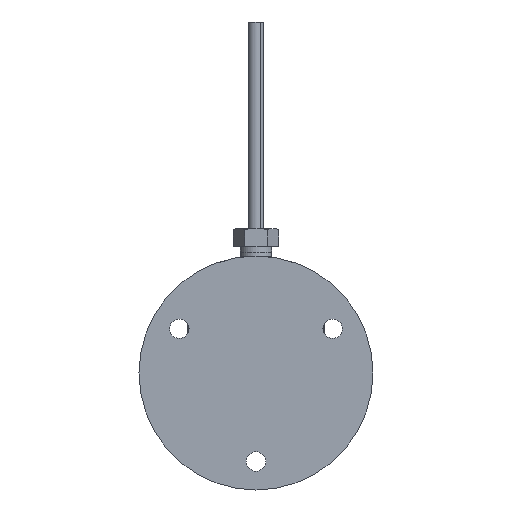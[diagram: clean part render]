
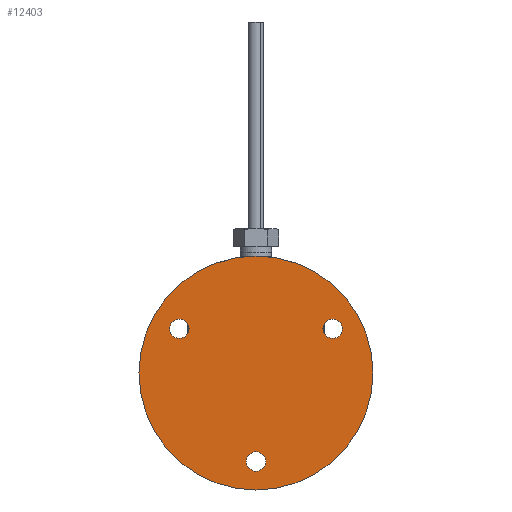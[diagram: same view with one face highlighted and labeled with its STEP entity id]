
A CAD part, front view. The second image highlights one B-rep face of the part: STEP entity #12403.
In plain terms, the highlighted planar face has unit normal (0, -1, 0) as drawn and (-1, 0, 0) by its records, which use the part's own axes.
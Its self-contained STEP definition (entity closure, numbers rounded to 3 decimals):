
#665=PLANE('',#13325);
#1400=CIRCLE('',#13326,2.459);
#1401=CIRCLE('',#13327,2.459);
#1402=CIRCLE('',#13328,2.459);
#1403=CIRCLE('',#13329,29.75);
#2226=ORIENTED_EDGE('',*,*,#5523,.T.);
#2227=ORIENTED_EDGE('',*,*,#5524,.T.);
#2228=ORIENTED_EDGE('',*,*,#5525,.T.);
#2229=ORIENTED_EDGE('',*,*,#5526,.T.);
#5523=EDGE_CURVE('',#7218,#7218,#1400,.T.);
#5524=EDGE_CURVE('',#7219,#7219,#1401,.T.);
#5525=EDGE_CURVE('',#7220,#7220,#1402,.T.);
#5526=EDGE_CURVE('',#7221,#7221,#1403,.T.);
#7218=VERTEX_POINT('',#21075);
#7219=VERTEX_POINT('',#21077);
#7220=VERTEX_POINT('',#21079);
#7221=VERTEX_POINT('',#21081);
#9445=EDGE_LOOP('',(#2226));
#9446=EDGE_LOOP('',(#2227));
#9447=EDGE_LOOP('',(#2228));
#9448=EDGE_LOOP('',(#2229));
#10382=FACE_BOUND('',#9445,.T.);
#10383=FACE_BOUND('',#9446,.T.);
#10384=FACE_BOUND('',#9447,.T.);
#10385=FACE_BOUND('',#9448,.T.);
#12403=ADVANCED_FACE('',(#10382,#10383,#10384,#10385),#665,.F.);
#13325=AXIS2_PLACEMENT_3D('',#21073,#14635,#14636);
#13326=AXIS2_PLACEMENT_3D('',#21074,#14637,#14638);
#13327=AXIS2_PLACEMENT_3D('',#21076,#14639,#14640);
#13328=AXIS2_PLACEMENT_3D('',#21078,#14641,#14642);
#13329=AXIS2_PLACEMENT_3D('',#21080,#14643,#14644);
#14635=DIRECTION('',(1.,0.,0.));
#14636=DIRECTION('',(0.,0.,-1.));
#14637=DIRECTION('',(1.,0.,0.));
#14638=DIRECTION('',(0.,0.,-1.));
#14639=DIRECTION('',(1.,0.,0.));
#14640=DIRECTION('',(0.,0.,-1.));
#14641=DIRECTION('',(1.,0.,0.));
#14642=DIRECTION('',(0.,0.,-1.));
#14643=DIRECTION('',(-1.,0.,0.));
#14644=DIRECTION('',(0.,0.,1.));
#21073=CARTESIAN_POINT('',(0.,0.,0.));
#21074=CARTESIAN_POINT('',(0.,19.486,11.25));
#21075=CARTESIAN_POINT('',(0.,19.486,8.792));
#21076=CARTESIAN_POINT('',(0.,-19.486,11.25));
#21077=CARTESIAN_POINT('',(0.,-19.486,8.792));
#21078=CARTESIAN_POINT('',(0.,0.,-22.5));
#21079=CARTESIAN_POINT('',(0.,0.,-24.959));
#21080=CARTESIAN_POINT('',(0.,0.,0.));
#21081=CARTESIAN_POINT('',(0.,0.,29.75));
